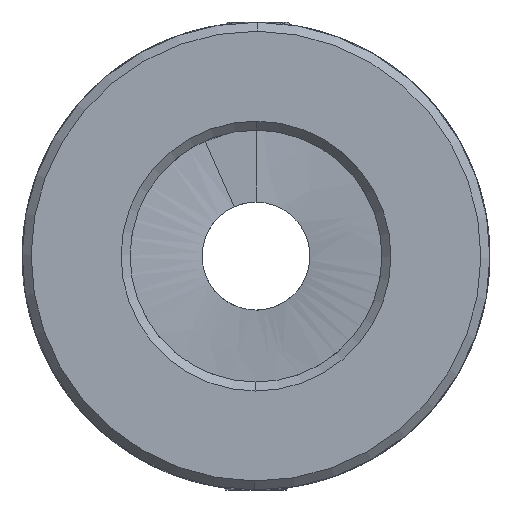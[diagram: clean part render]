
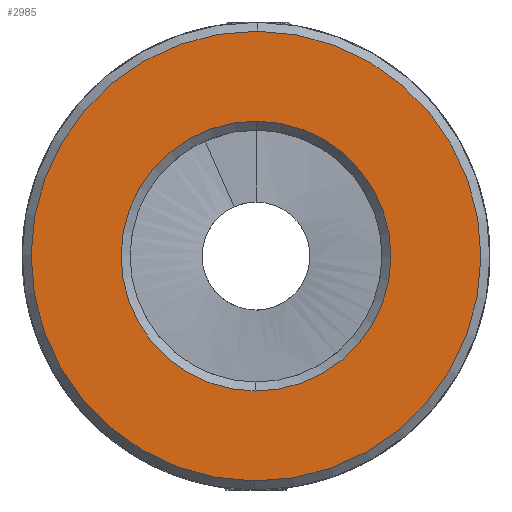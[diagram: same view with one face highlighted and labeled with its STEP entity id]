
A CAD part, front view. The second image highlights one B-rep face of the part: STEP entity #2985.
In plain terms, the highlighted planar face has unit normal (0, -1, 0) as drawn and (0, 1, 0) by its records, which use the part's own axes.
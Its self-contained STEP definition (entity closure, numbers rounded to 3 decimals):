
#13 = PLANE ( 'NONE',  #7772 ) ;
#370 = ORIENTED_EDGE ( 'NONE', *, *, #11346, .T. ) ;
#406 = DIRECTION ( 'NONE',  ( 0., 0., 1. ) ) ;
#932 = ORIENTED_EDGE ( 'NONE', *, *, #10522, .T. ) ;
#1201 = AXIS2_PLACEMENT_3D ( 'NONE', #2630, #9616, #406 ) ;
#1704 = DIRECTION ( 'NONE',  ( 0., 0., 1. ) ) ;
#2158 = DIRECTION ( 'NONE',  ( 0., 0., 1. ) ) ;
#2630 = CARTESIAN_POINT ( 'NONE',  ( 0., 11., 0. ) ) ;
#2819 = EDGE_CURVE ( 'NONE', #5902, #8049, #12045, .T. ) ;
#2888 = CIRCLE ( 'NONE', #12541, 12.5 ) ;
#2985 = ADVANCED_FACE ( 'NONE', ( #5334, #11370 ), #13, .T. ) ;
#3706 = AXIS2_PLACEMENT_3D ( 'NONE', #5879, #9025, #1704 ) ;
#4132 = CARTESIAN_POINT ( 'NONE',  ( 0., 11., 0. ) ) ;
#4652 = DIRECTION ( 'NONE',  ( 0., 1., 0. ) ) ;
#5334 = FACE_BOUND ( 'NONE', #5560, .T. ) ;
#5560 = EDGE_LOOP ( 'NONE', ( #370, #9446 ) ) ;
#5879 = CARTESIAN_POINT ( 'NONE',  ( 0., 11., 0. ) ) ;
#5902 = VERTEX_POINT ( 'NONE', #7756 ) ;
#6170 = CARTESIAN_POINT ( 'NONE',  ( 0., 11., 0. ) ) ;
#6481 = EDGE_LOOP ( 'NONE', ( #932, #10972 ) ) ;
#6997 = CIRCLE ( 'NONE', #11056, 12.5 ) ;
#7034 = CARTESIAN_POINT ( 'NONE',  ( 0., 11., 7.5 ) ) ;
#7756 = CARTESIAN_POINT ( 'NONE',  ( 0., 11., -7.5 ) ) ;
#7772 = AXIS2_PLACEMENT_3D ( 'NONE', #4132, #8294, #2158 ) ;
#8049 = VERTEX_POINT ( 'NONE', #7034 ) ;
#8167 = EDGE_CURVE ( 'NONE', #10908, #9861, #2888, .T. ) ;
#8294 = DIRECTION ( 'NONE',  ( 0., 1., 0. ) ) ;
#8934 = CIRCLE ( 'NONE', #1201, 7.5 ) ;
#9025 = DIRECTION ( 'NONE',  ( 0., -1., 0. ) ) ;
#9110 = DIRECTION ( 'NONE',  ( 0., 1., 0. ) ) ;
#9418 = CARTESIAN_POINT ( 'NONE',  ( 0., 11., 0. ) ) ;
#9446 = ORIENTED_EDGE ( 'NONE', *, *, #2819, .T. ) ;
#9614 = DIRECTION ( 'NONE',  ( 0., 0., 1. ) ) ;
#9616 = DIRECTION ( 'NONE',  ( 0., -1., 0. ) ) ;
#9861 = VERTEX_POINT ( 'NONE', #13181 ) ;
#10048 = DIRECTION ( 'NONE',  ( 0., 0., 1. ) ) ;
#10482 = CARTESIAN_POINT ( 'NONE',  ( 0., 11., 12.5 ) ) ;
#10522 = EDGE_CURVE ( 'NONE', #9861, #10908, #6997, .T. ) ;
#10908 = VERTEX_POINT ( 'NONE', #10482 ) ;
#10972 = ORIENTED_EDGE ( 'NONE', *, *, #8167, .T. ) ;
#11056 = AXIS2_PLACEMENT_3D ( 'NONE', #9418, #4652, #9614 ) ;
#11346 = EDGE_CURVE ( 'NONE', #8049, #5902, #8934, .T. ) ;
#11370 = FACE_OUTER_BOUND ( 'NONE', #6481, .T. ) ;
#12045 = CIRCLE ( 'NONE', #3706, 7.5 ) ;
#12541 = AXIS2_PLACEMENT_3D ( 'NONE', #6170, #9110, #10048 ) ;
#13181 = CARTESIAN_POINT ( 'NONE',  ( 0., 11., -12.5 ) ) ;
